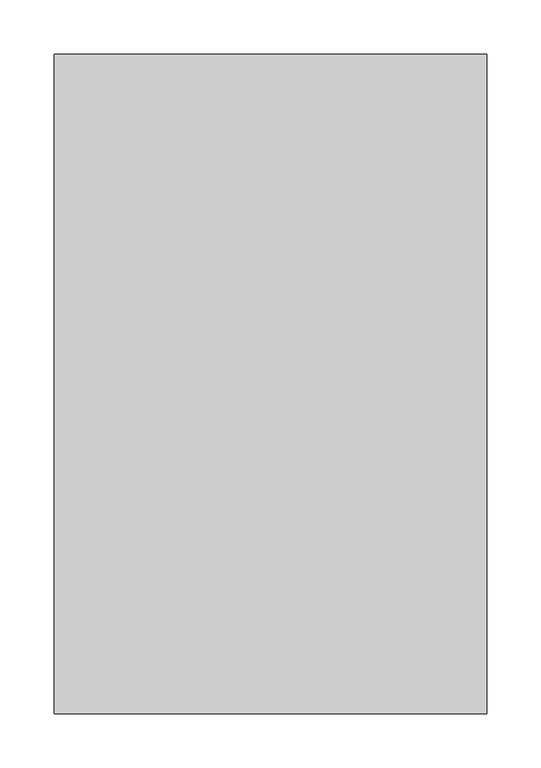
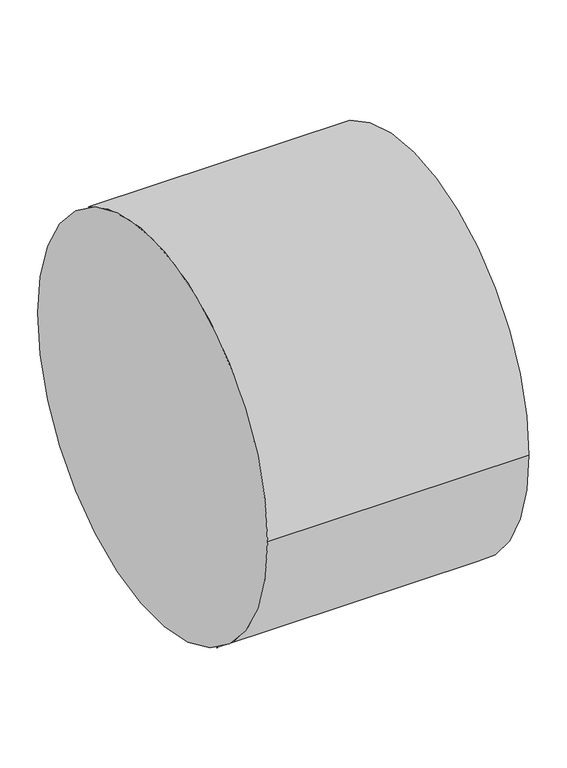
"""IFC4 building model written with IfcOpenShell, lengths in millimetres: damper geometry, 06_Клапан_Размер соединителя-2 : 02_Клапан_Геометрия."""

from ifc_helpers import new_model, si_unit, point, frame, origin, origin_2d, place, context, project, spatial, circle_curve, trimmed, segment, composite_curve, outline, extrude, source, transform, mapped, element, save


def damper_74110298(model_context):
    return source(origin(), model_context, "Body", "SweptSolid", [
        extrude(outline(composite_curve([segment(trimmed(circle_curve(origin_2d(), 305.0), [point((-305.0, 0.0))], [point((305.0, 0.0))], False, "CARTESIAN"), True, "CONTINUOUS"), segment(trimmed(circle_curve(origin_2d(), 305.0), [point((305.0, 0.0))], [point((-305.0, 0.0))], False, "CARTESIAN"), True, "CONTINUOUS")], self_intersect=False)), frame((-200.0, 0.0, 0.0), z_axis=(1.0, 0.0, 0.0), x_axis=(0.0, 1.0, 0.0)), (0.0, 0.0, 1.0), 400.0),
    ])


if __name__ == "__main__":
    model = new_model("IFC4")
    model_context = context("Model", 3, world=origin())
    ifc_project = project(units=[si_unit("LENGTHUNIT", "METRE", prefix="MILLI")], contexts=[model_context])
    site = spatial("IfcSite", under=ifc_project)
    building = spatial("IfcBuilding", under=site)
    placement = place(None, origin())
    damper_shape = damper_74110298(model_context)
    element("IfcDamper", 1, ObjectType="06_Клапан_Размер соединителя-2 : 02_Клапан_Геометрия", at=placement, inside=building, context=model_context, shape_type="MappedRepresentation", body=[
        mapped(damper_shape, transform((0.0, 0.0, 0.0), x_axis=(1.0, 0.0, 0.0), y_axis=(0.0, 1.0, 0.0), z_axis=(0.0, 0.0, 1.0))),
    ])
    save(model, "model.ifc")
